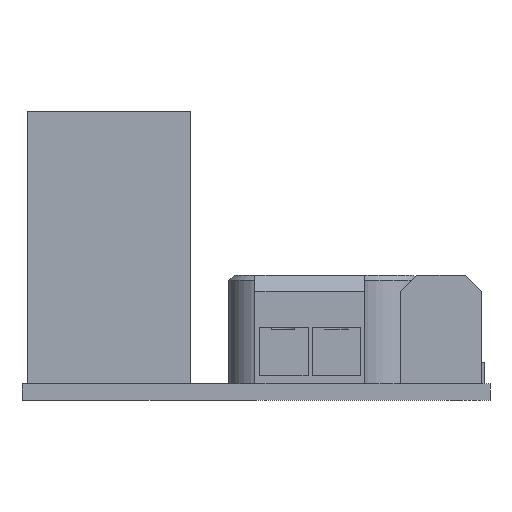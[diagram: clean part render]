
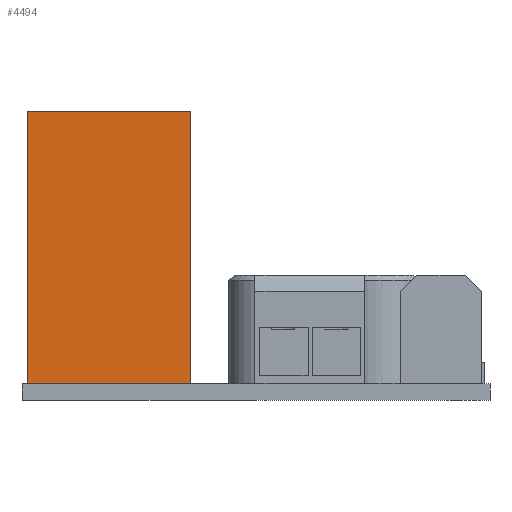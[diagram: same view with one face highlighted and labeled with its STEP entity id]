
A CAD part, left-side view. The second image highlights one B-rep face of the part: STEP entity #4494.
In plain terms, the highlighted planar face has unit normal (-1, 0, 0).
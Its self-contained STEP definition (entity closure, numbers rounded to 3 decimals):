
#2981 = VERTEX_POINT('',#2982);
#2982 = CARTESIAN_POINT('',(-11.5,7.5,0.));
#2991 = PLANE('',#2992);
#2992 = AXIS2_PLACEMENT_3D('',#2993,#2994,#2995);
#2993 = CARTESIAN_POINT('',(-11.5,7.5,0.));
#2994 = DIRECTION('',(0.,1.,0.));
#2995 = DIRECTION('',(1.,0.,0.));
#3003 = PLANE('',#3004);
#3004 = AXIS2_PLACEMENT_3D('',#3005,#3006,#3007);
#3005 = CARTESIAN_POINT('',(0.,0.,0.));
#3006 = DIRECTION('',(-0.,-0.,-1.));
#3007 = DIRECTION('',(-1.,0.,0.));
#3015 = EDGE_CURVE('',#2981,#3016,#3018,.T.);
#3016 = VERTEX_POINT('',#3017);
#3017 = CARTESIAN_POINT('',(-11.5,7.5,25.));
#3018 = SURFACE_CURVE('',#3019,(#3023,#3030),.PCURVE_S1.);
#3019 = LINE('',#3020,#3021);
#3020 = CARTESIAN_POINT('',(-11.5,7.5,0.));
#3021 = VECTOR('',#3022,1.);
#3022 = DIRECTION('',(0.,0.,1.));
#3023 = PCURVE('',#2991,#3024);
#3024 = DEFINITIONAL_REPRESENTATION('',(#3025),#3029);
#3025 = LINE('',#3026,#3027);
#3026 = CARTESIAN_POINT('',(0.,0.));
#3027 = VECTOR('',#3028,1.);
#3028 = DIRECTION('',(0.,-1.));
#3029 = ( GEOMETRIC_REPRESENTATION_CONTEXT(2) 
PARAMETRIC_REPRESENTATION_CONTEXT() REPRESENTATION_CONTEXT('2D SPACE',''
  ) );
#3030 = PCURVE('',#3031,#3036);
#3031 = PLANE('',#3032);
#3032 = AXIS2_PLACEMENT_3D('',#3033,#3034,#3035);
#3033 = CARTESIAN_POINT('',(-11.5,-7.5,0.));
#3034 = DIRECTION('',(-1.,0.,0.));
#3035 = DIRECTION('',(0.,1.,0.));
#3036 = DEFINITIONAL_REPRESENTATION('',(#3037),#3041);
#3037 = LINE('',#3038,#3039);
#3038 = CARTESIAN_POINT('',(15.,0.));
#3039 = VECTOR('',#3040,1.);
#3040 = DIRECTION('',(0.,-1.));
#3041 = ( GEOMETRIC_REPRESENTATION_CONTEXT(2) 
PARAMETRIC_REPRESENTATION_CONTEXT() REPRESENTATION_CONTEXT('2D SPACE',''
  ) );
#3059 = PLANE('',#3060);
#3060 = AXIS2_PLACEMENT_3D('',#3061,#3062,#3063);
#3061 = CARTESIAN_POINT('',(0.,0.,25.));
#3062 = DIRECTION('',(-0.,-0.,-1.));
#3063 = DIRECTION('',(-1.,0.,0.));
#3100 = EDGE_CURVE('',#3101,#2981,#3103,.T.);
#3101 = VERTEX_POINT('',#3102);
#3102 = CARTESIAN_POINT('',(-11.5,-7.5,0.));
#3103 = SURFACE_CURVE('',#3104,(#3108,#3115),.PCURVE_S1.);
#3104 = LINE('',#3105,#3106);
#3105 = CARTESIAN_POINT('',(-11.5,-7.5,0.));
#3106 = VECTOR('',#3107,1.);
#3107 = DIRECTION('',(0.,1.,0.));
#3108 = PCURVE('',#3003,#3109);
#3109 = DEFINITIONAL_REPRESENTATION('',(#3110),#3114);
#3110 = LINE('',#3111,#3112);
#3111 = CARTESIAN_POINT('',(11.5,-7.5));
#3112 = VECTOR('',#3113,1.);
#3113 = DIRECTION('',(0.,1.));
#3114 = ( GEOMETRIC_REPRESENTATION_CONTEXT(2) 
PARAMETRIC_REPRESENTATION_CONTEXT() REPRESENTATION_CONTEXT('2D SPACE',''
  ) );
#3115 = PCURVE('',#3031,#3116);
#3116 = DEFINITIONAL_REPRESENTATION('',(#3117),#3121);
#3117 = LINE('',#3118,#3119);
#3118 = CARTESIAN_POINT('',(0.,0.));
#3119 = VECTOR('',#3120,1.);
#3120 = DIRECTION('',(1.,0.));
#3121 = ( GEOMETRIC_REPRESENTATION_CONTEXT(2) 
PARAMETRIC_REPRESENTATION_CONTEXT() REPRESENTATION_CONTEXT('2D SPACE',''
  ) );
#3833 = PLANE('',#3834);
#3834 = AXIS2_PLACEMENT_3D('',#3835,#3836,#3837);
#3835 = CARTESIAN_POINT('',(11.5,-7.5,0.));
#3836 = DIRECTION('',(0.,-1.,0.));
#3837 = DIRECTION('',(-1.,0.,0.));
#3897 = EDGE_CURVE('',#3898,#3016,#3900,.T.);
#3898 = VERTEX_POINT('',#3899);
#3899 = CARTESIAN_POINT('',(-11.5,-7.5,25.));
#3900 = SURFACE_CURVE('',#3901,(#3905,#3912),.PCURVE_S1.);
#3901 = LINE('',#3902,#3903);
#3902 = CARTESIAN_POINT('',(-11.5,-7.5,25.));
#3903 = VECTOR('',#3904,1.);
#3904 = DIRECTION('',(0.,1.,0.));
#3905 = PCURVE('',#3059,#3906);
#3906 = DEFINITIONAL_REPRESENTATION('',(#3907),#3911);
#3907 = LINE('',#3908,#3909);
#3908 = CARTESIAN_POINT('',(11.5,-7.5));
#3909 = VECTOR('',#3910,1.);
#3910 = DIRECTION('',(0.,1.));
#3911 = ( GEOMETRIC_REPRESENTATION_CONTEXT(2) 
PARAMETRIC_REPRESENTATION_CONTEXT() REPRESENTATION_CONTEXT('2D SPACE',''
  ) );
#3912 = PCURVE('',#3031,#3913);
#3913 = DEFINITIONAL_REPRESENTATION('',(#3914),#3918);
#3914 = LINE('',#3915,#3916);
#3915 = CARTESIAN_POINT('',(0.,-25.));
#3916 = VECTOR('',#3917,1.);
#3917 = DIRECTION('',(1.,0.));
#3918 = ( GEOMETRIC_REPRESENTATION_CONTEXT(2) 
PARAMETRIC_REPRESENTATION_CONTEXT() REPRESENTATION_CONTEXT('2D SPACE',''
  ) );
#4494 = ADVANCED_FACE('',(#4495),#3031,.T.);
#4495 = FACE_BOUND('',#4496,.T.);
#4496 = EDGE_LOOP('',(#4497,#4518,#4519,#4520));
#4497 = ORIENTED_EDGE('',*,*,#4498,.T.);
#4498 = EDGE_CURVE('',#3101,#3898,#4499,.T.);
#4499 = SURFACE_CURVE('',#4500,(#4504,#4511),.PCURVE_S1.);
#4500 = LINE('',#4501,#4502);
#4501 = CARTESIAN_POINT('',(-11.5,-7.5,0.));
#4502 = VECTOR('',#4503,1.);
#4503 = DIRECTION('',(0.,0.,1.));
#4504 = PCURVE('',#3031,#4505);
#4505 = DEFINITIONAL_REPRESENTATION('',(#4506),#4510);
#4506 = LINE('',#4507,#4508);
#4507 = CARTESIAN_POINT('',(0.,0.));
#4508 = VECTOR('',#4509,1.);
#4509 = DIRECTION('',(0.,-1.));
#4510 = ( GEOMETRIC_REPRESENTATION_CONTEXT(2) 
PARAMETRIC_REPRESENTATION_CONTEXT() REPRESENTATION_CONTEXT('2D SPACE',''
  ) );
#4511 = PCURVE('',#3833,#4512);
#4512 = DEFINITIONAL_REPRESENTATION('',(#4513),#4517);
#4513 = LINE('',#4514,#4515);
#4514 = CARTESIAN_POINT('',(23.,0.));
#4515 = VECTOR('',#4516,1.);
#4516 = DIRECTION('',(0.,-1.));
#4517 = ( GEOMETRIC_REPRESENTATION_CONTEXT(2) 
PARAMETRIC_REPRESENTATION_CONTEXT() REPRESENTATION_CONTEXT('2D SPACE',''
  ) );
#4518 = ORIENTED_EDGE('',*,*,#3897,.T.);
#4519 = ORIENTED_EDGE('',*,*,#3015,.F.);
#4520 = ORIENTED_EDGE('',*,*,#3100,.F.);
